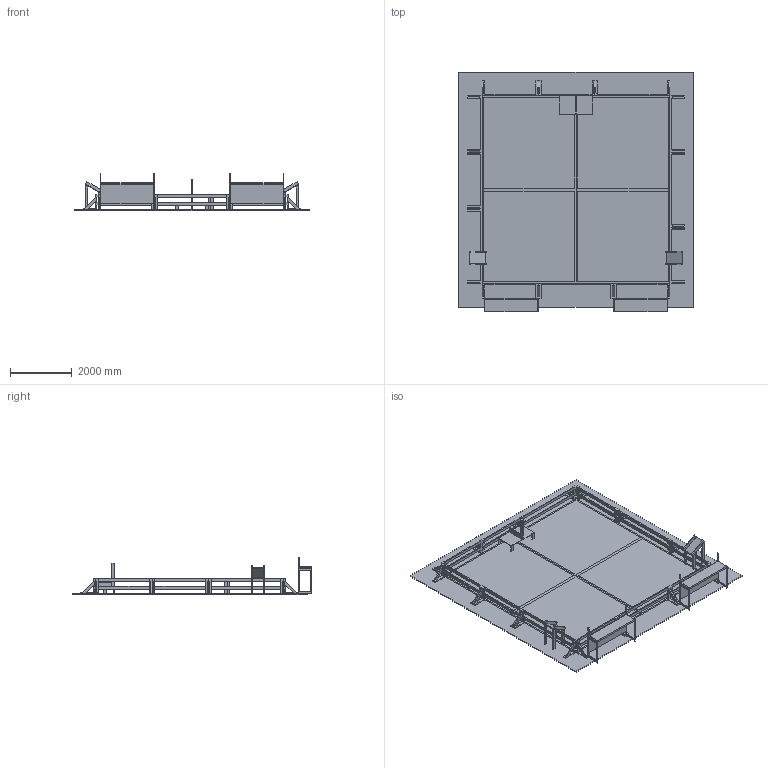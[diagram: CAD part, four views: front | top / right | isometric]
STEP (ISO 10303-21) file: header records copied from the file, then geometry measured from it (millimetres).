
FILE_DESCRIPTION(('FreeCAD Model'),'2;1');
FILE_NAME('Open CASCADE Shape Model','2023-09-28T12:51:50',('Author'),( ''),'Open CASCADE STEP processor 7.6','FreeCAD','Unknown');
FILE_SCHEMA(('AUTOMOTIVE_DESIGN { 1 0 10303 214 1 1 1 1 }'));
Length unit declared in the file: millimetre
Products named in the file (19): fieldassm; floor1_001; fence6ft_001; fence6ft_002; fence8ft_001; fence6ft_003; fence6ft_004; fence8ft_002; fence6ft_005; fence8ft_003; fence6ft_006; fence6ft_007; fence8ft_004; fence6ft_008; driverstation1_001; driverstation1_002; platformassm_001; ramp assm_001; ramp assm_002
Assembly tree (18 placements, depth 2):
  fieldassm
    floor1_001
    fence6ft_001
    fence6ft_002
    fence8ft_001
    fence6ft_003
    fence6ft_004
    fence8ft_002
    fence6ft_005
    fence8ft_003
    fence6ft_006
    fence6ft_007
    fence8ft_004
    fence6ft_008
    driverstation1_001
    driverstation1_002
    platformassm_001
    ramp assm_001
    ramp assm_002
Bounding box: 7620 x 7772.4 x 1206.5 mm (x, y, z)
Volume: 1877451708.7 mm3; surface area: 150942026 mm2
Topology: 35 solids, 37 shells, 602 faces, 1670 edges, 1080 vertices
Faces by surface type: plane 602
Entity records: 42740 total; most frequent: CARTESIAN_POINT 6711, DIRECTION 6252, LINE 5010, VECTOR 5010, ORIENTED_EDGE 3340, PCURVE 3340, DEFINITIONAL_REPRESENTATION 3340, EDGE_CURVE 1670
